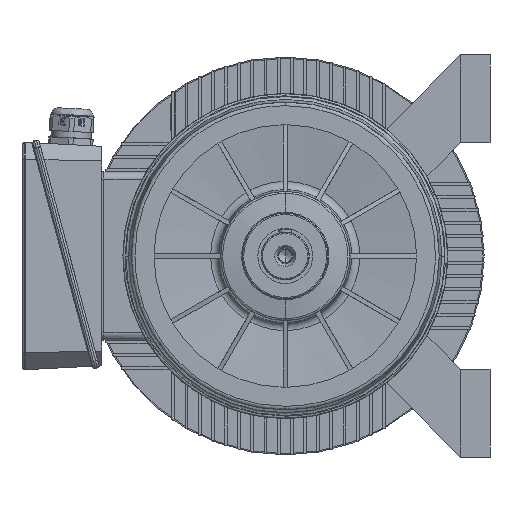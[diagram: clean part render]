
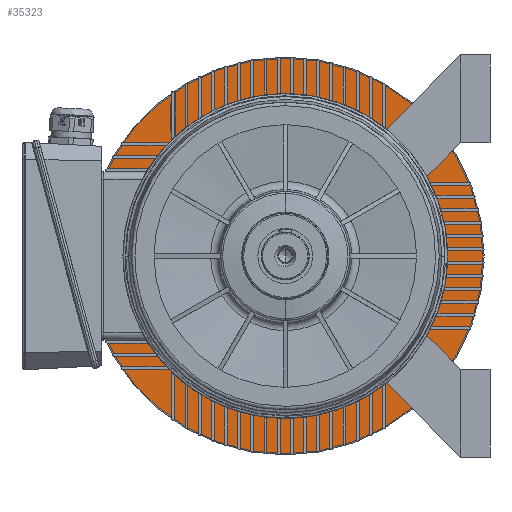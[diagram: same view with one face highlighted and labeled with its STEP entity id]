
A CAD part, left-side view. The second image highlights one B-rep face of the part: STEP entity #35323.
In plain terms, the highlighted planar face has unit normal (-1, 0, 0).
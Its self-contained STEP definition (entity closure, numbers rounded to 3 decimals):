
#3039 = DIRECTION ( 'NONE',  ( -1., 0., 0. ) ) ;
#4513 = AXIS2_PLACEMENT_3D ( 'NONE', #31060, #4612, #16392 ) ;
#4612 = DIRECTION ( 'NONE',  ( -1., 0., 0. ) ) ;
#5521 = AXIS2_PLACEMENT_3D ( 'NONE', #29479, #3039, #14826 ) ;
#5652 = ORIENTED_EDGE ( 'NONE', *, *, #25730, .F. ) ;
#6024 = VERTEX_POINT ( 'NONE', #15274 ) ;
#6202 = EDGE_CURVE ( 'NONE', #15393, #15990, #21177, .T. ) ;
#7604 = DIRECTION ( 'NONE',  ( 0., 1., 0. ) ) ;
#7971 = DIRECTION ( 'NONE',  ( -1., 0., 0. ) ) ;
#9392 = CARTESIAN_POINT ( 'NONE',  ( 294.382, 0., 0. ) ) ;
#9402 = EDGE_LOOP ( 'NONE', ( #25610, #5652 ) ) ;
#10047 = CIRCLE ( 'NONE', #31615, 222. ) ;
#10876 = FACE_OUTER_BOUND ( 'NONE', #22032, .T. ) ;
#10925 = CARTESIAN_POINT ( 'NONE',  ( 294.382, 270.5, 0. ) ) ;
#13524 = CIRCLE ( 'NONE', #18462, 270.5 ) ;
#14826 = DIRECTION ( 'NONE',  ( 0., 1., 0. ) ) ;
#14896 = AXIS2_PLACEMENT_3D ( 'NONE', #34402, #7971, #19740 ) ;
#15190 = ORIENTED_EDGE ( 'NONE', *, *, #33375, .T. ) ;
#15274 = CARTESIAN_POINT ( 'NONE',  ( 294.382, -222., 0. ) ) ;
#15393 = VERTEX_POINT ( 'NONE', #29759 ) ;
#15990 = VERTEX_POINT ( 'NONE', #10925 ) ;
#16392 = DIRECTION ( 'NONE',  ( 0., 1., 0. ) ) ;
#17224 = CIRCLE ( 'NONE', #5521, 222. ) ;
#18462 = AXIS2_PLACEMENT_3D ( 'NONE', #9392, #21165, #32943 ) ;
#19740 = DIRECTION ( 'NONE',  ( 0., 0., 1. ) ) ;
#21165 = DIRECTION ( 'NONE',  ( -1., 0., 0. ) ) ;
#21177 = CIRCLE ( 'NONE', #4513, 270.5 ) ;
#22032 = EDGE_LOOP ( 'NONE', ( #15190, #30268 ) ) ;
#22263 = CARTESIAN_POINT ( 'NONE',  ( 294.382, 0., 0. ) ) ;
#22633 = PLANE ( 'NONE',  #14896 ) ;
#25610 = ORIENTED_EDGE ( 'NONE', *, *, #33312, .F. ) ;
#25730 = EDGE_CURVE ( 'NONE', #6024, #32244, #10047, .T. ) ;
#29479 = CARTESIAN_POINT ( 'NONE',  ( 294.382, 0., 0. ) ) ;
#29759 = CARTESIAN_POINT ( 'NONE',  ( 294.382, -270.5, 0. ) ) ;
#30268 = ORIENTED_EDGE ( 'NONE', *, *, #6202, .T. ) ;
#31060 = CARTESIAN_POINT ( 'NONE',  ( 294.382, 0., 0. ) ) ;
#31615 = AXIS2_PLACEMENT_3D ( 'NONE', #22263, #34031, #7604 ) ;
#32244 = VERTEX_POINT ( 'NONE', #34531 ) ;
#32943 = DIRECTION ( 'NONE',  ( 0., 1., 0. ) ) ;
#33312 = EDGE_CURVE ( 'NONE', #32244, #6024, #17224, .T. ) ;
#33375 = EDGE_CURVE ( 'NONE', #15990, #15393, #13524, .T. ) ;
#34031 = DIRECTION ( 'NONE',  ( -1., 0., 0. ) ) ;
#34402 = CARTESIAN_POINT ( 'NONE',  ( 294.382, 246.25, 0. ) ) ;
#34531 = CARTESIAN_POINT ( 'NONE',  ( 294.382, 222., 0. ) ) ;
#35323 = ADVANCED_FACE ( 'NONE', ( #37301, #10876 ), #22633, .T. ) ;
#37301 = FACE_BOUND ( 'NONE', #9402, .T. ) ;
